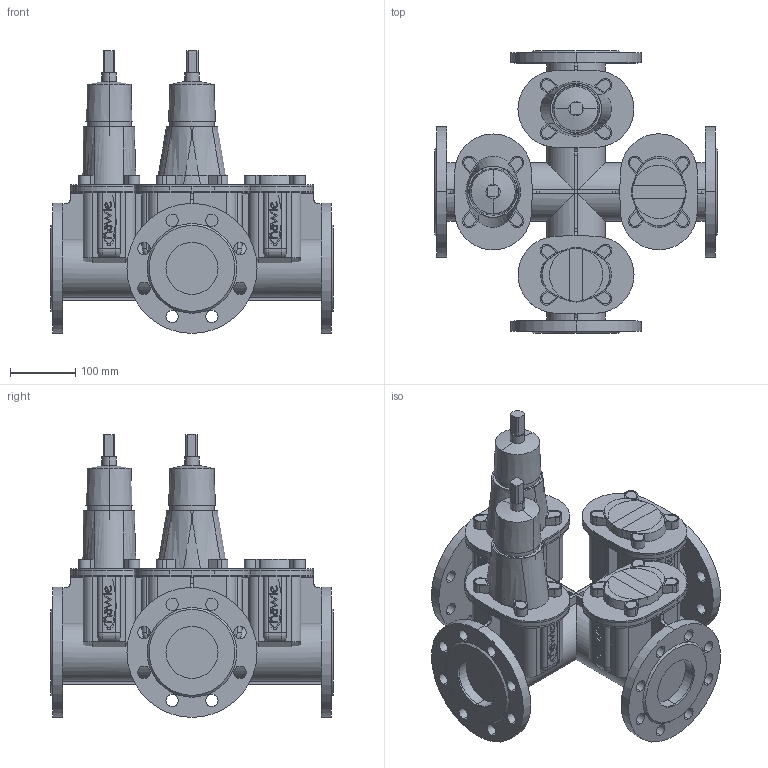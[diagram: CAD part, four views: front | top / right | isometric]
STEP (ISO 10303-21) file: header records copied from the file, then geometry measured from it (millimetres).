
FILE_DESCRIPTION(('STEP AP214'),'1');
FILE_NAME('S:/EK/USER/CAT6/3DHomepage_27-04-2012/neu_23-01-2013/4400E2/4400E2_PN16_DN80_2_9-12-B-B.STP','2013-02-22T08:15:55',(' '),(' '),'Spatial InterOp 3D',' ',' ');
FILE_SCHEMA(('automotive_design'));
Length unit declared in the file: millimetre
Products named in the file (171): 3D-Objekt
Bounding box: 435 x 435 x 435 mm (x, y, z)
Volume: 14664945.7 mm3; surface area: 1874261.1 mm2
Topology: 171 solids, 171 shells, 1584 faces, 3692 edges, 2458 vertices
Faces by surface type: plane 896, cylinder 608, bspline 40, cone 24, torus 16
Entity records: 62843 total; most frequent: CARTESIAN_POINT 8585, DIRECTION 8510, ORIENTED_EDGE 7384, EDGE_CURVE 3692, AXIS2_PLACEMENT_3D 3103, VERTEX_POINT 2458, LINE 2304, VECTOR 2304
